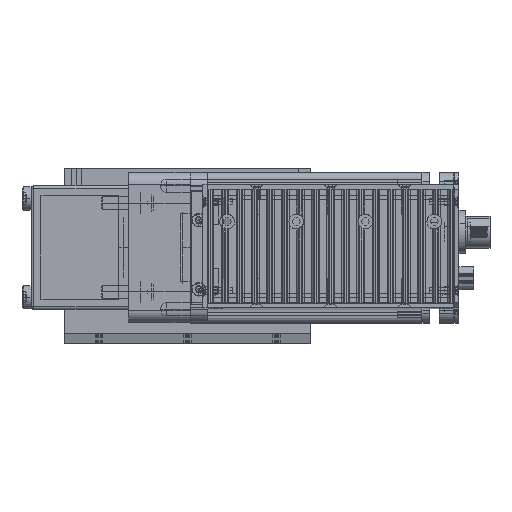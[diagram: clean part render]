
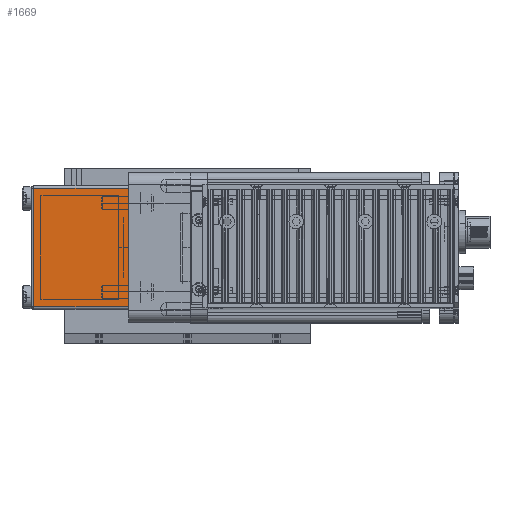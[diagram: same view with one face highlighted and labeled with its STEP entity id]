
A CAD part, top view. The second image highlights one B-rep face of the part: STEP entity #1669.
In plain terms, the highlighted planar face has unit normal (0, 0, 1) as drawn and (1, 0, 0) by its records, which use the part's own axes.
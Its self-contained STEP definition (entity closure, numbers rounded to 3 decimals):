
#898 = VERTEX_POINT ( 'NONE', #10839 ) ;
#901 = VERTEX_POINT ( 'NONE', #10788 ) ;
#995 = EDGE_CURVE ( 'NONE', #1041, #898, #10945, .T. ) ;
#1041 = VERTEX_POINT ( 'NONE', #11070 ) ;
#1071 = EDGE_CURVE ( 'NONE', #1090, #901, #11124, .T. ) ;
#1090 = VERTEX_POINT ( 'NONE', #11251 ) ;
#1654 = ORIENTED_EDGE ( 'NONE', *, *, #1660, .F. ) ;
#1660 = EDGE_CURVE ( 'NONE', #901, #1041, #12830, .T. ) ;
#1663 = EDGE_CURVE ( 'NONE', #1090, #898, #12823, .T. ) ;
#1666 = ORIENTED_EDGE ( 'NONE', *, *, #995, .F. ) ;
#1667 = ORIENTED_EDGE ( 'NONE', *, *, #1663, .T. ) ;
#1669 = ADVANCED_FACE ( 'NONE', ( #12821 ), #12842, .F. ) ;
#1706 = ORIENTED_EDGE ( 'NONE', *, *, #1071, .F. ) ;
#1713 = EDGE_LOOP ( 'NONE', ( #1706, #1667, #1666, #1654 ) ) ;
#10788 = CARTESIAN_POINT ( 'NONE',  ( 62., -24., 38.5 ) ) ;
#10839 = CARTESIAN_POINT ( 'NONE',  ( 62., 24., 0. ) ) ;
#10945 = LINE ( 'NONE', #10948, #11000 ) ;
#10948 = CARTESIAN_POINT ( 'NONE',  ( 62., 24., 39.5 ) ) ;
#10999 = DIRECTION ( 'NONE',  ( 0., 0., -1. ) ) ;
#11000 = VECTOR ( 'NONE', #10999, 1000. ) ;
#11070 = CARTESIAN_POINT ( 'NONE',  ( 62., 24., 38.5 ) ) ;
#11121 = DIRECTION ( 'NONE',  ( 0., 0., 1. ) ) ;
#11122 = VECTOR ( 'NONE', #11121, 1000. ) ;
#11123 = CARTESIAN_POINT ( 'NONE',  ( 62., -24., 39.5 ) ) ;
#11124 = LINE ( 'NONE', #11123, #11122 ) ;
#11251 = CARTESIAN_POINT ( 'NONE',  ( 62., -24., 0. ) ) ;
#12804 = DIRECTION ( 'NONE',  ( 0., -1., 0. ) ) ;
#12805 = DIRECTION ( 'NONE',  ( -1., 0., 0. ) ) ;
#12815 = DIRECTION ( 'NONE',  ( 0., 1., 0. ) ) ;
#12817 = VECTOR ( 'NONE', #12815, 1000. ) ;
#12821 = FACE_OUTER_BOUND ( 'NONE', #1713, .T. ) ;
#12822 = CARTESIAN_POINT ( 'NONE',  ( 62., -25., 0. ) ) ;
#12823 = LINE ( 'NONE', #12822, #12817 ) ;
#12825 = DIRECTION ( 'NONE',  ( 0., 1., 0. ) ) ;
#12827 = VECTOR ( 'NONE', #12825, 1000. ) ;
#12828 = CARTESIAN_POINT ( 'NONE',  ( 62., -25., 38.5 ) ) ;
#12830 = LINE ( 'NONE', #12828, #12827 ) ;
#12838 = AXIS2_PLACEMENT_3D ( 'NONE', #12847, #12805, #12804 ) ;
#12842 = PLANE ( 'NONE',  #12838 ) ;
#12847 = CARTESIAN_POINT ( 'NONE',  ( 62., 25., 39.5 ) ) ;
